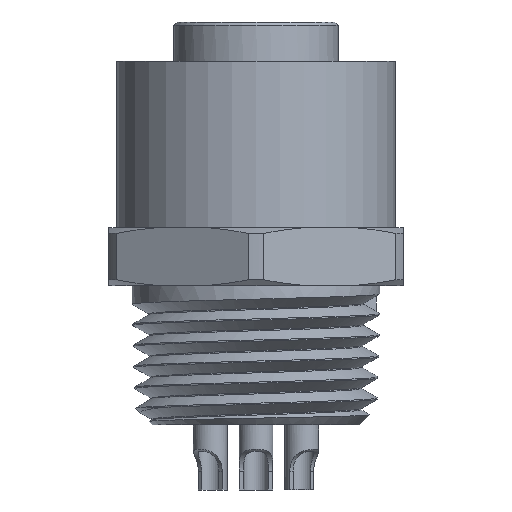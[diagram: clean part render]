
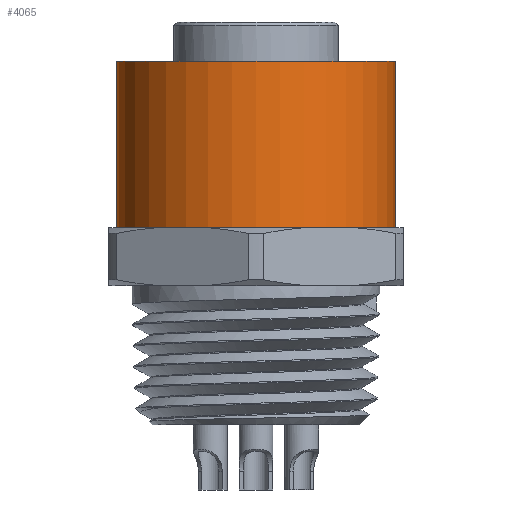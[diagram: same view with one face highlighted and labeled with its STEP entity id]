
A CAD part, front view. The second image highlights one B-rep face of the part: STEP entity #4065.
In plain terms, the highlighted cylindrical face has radius 12 mm (diameter 24 mm), a full revolution.
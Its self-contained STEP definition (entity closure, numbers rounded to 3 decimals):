
#614 = CIRCLE ( 'NONE', #6162, 12. ) ;
#671 = CARTESIAN_POINT ( 'NONE',  ( 0., 0., -3.4 ) ) ;
#802 = DIRECTION ( 'NONE',  ( 0., 0., 1. ) ) ;
#1168 = CARTESIAN_POINT ( 'NONE',  ( 0., 0., -17.7 ) ) ;
#1560 = CARTESIAN_POINT ( 'NONE',  ( 12., 0., -3.4 ) ) ;
#1642 = AXIS2_PLACEMENT_3D ( 'NONE', #4624, #802, #1906 ) ;
#1906 = DIRECTION ( 'NONE',  ( 1., 0., 0. ) ) ;
#1911 = CYLINDRICAL_SURFACE ( 'NONE', #3605, 12. ) ;
#2182 = EDGE_LOOP ( 'NONE', ( #2644 ) ) ;
#2235 = VERTEX_POINT ( 'NONE', #1560 ) ;
#2261 = DIRECTION ( 'NONE',  ( 1., 0., 0. ) ) ;
#2280 = EDGE_CURVE ( 'NONE', #3537, #3537, #614, .T. ) ;
#2528 = EDGE_LOOP ( 'NONE', ( #3579 ) ) ;
#2644 = ORIENTED_EDGE ( 'NONE', *, *, #3235, .F. ) ;
#2668 = CARTESIAN_POINT ( 'NONE',  ( 12., 0., -17.7 ) ) ;
#2950 = DIRECTION ( 'NONE',  ( 0., 0., 1. ) ) ;
#3040 = CIRCLE ( 'NONE', #1642, 12. ) ;
#3235 = EDGE_CURVE ( 'NONE', #2235, #2235, #3040, .T. ) ;
#3537 = VERTEX_POINT ( 'NONE', #2668 ) ;
#3560 = FACE_OUTER_BOUND ( 'NONE', #2528, .T. ) ;
#3579 = ORIENTED_EDGE ( 'NONE', *, *, #2280, .T. ) ;
#3605 = AXIS2_PLACEMENT_3D ( 'NONE', #671, #2950, #4133 ) ;
#4065 = ADVANCED_FACE ( 'NONE', ( #4159, #3560 ), #1911, .T. ) ;
#4133 = DIRECTION ( 'NONE',  ( 1., 0., 0. ) ) ;
#4159 = FACE_OUTER_BOUND ( 'NONE', #2182, .T. ) ;
#4624 = CARTESIAN_POINT ( 'NONE',  ( 0., 0., -3.4 ) ) ;
#6162 = AXIS2_PLACEMENT_3D ( 'NONE', #1168, #6674, #2261 ) ;
#6674 = DIRECTION ( 'NONE',  ( 0., 0., 1. ) ) ;
